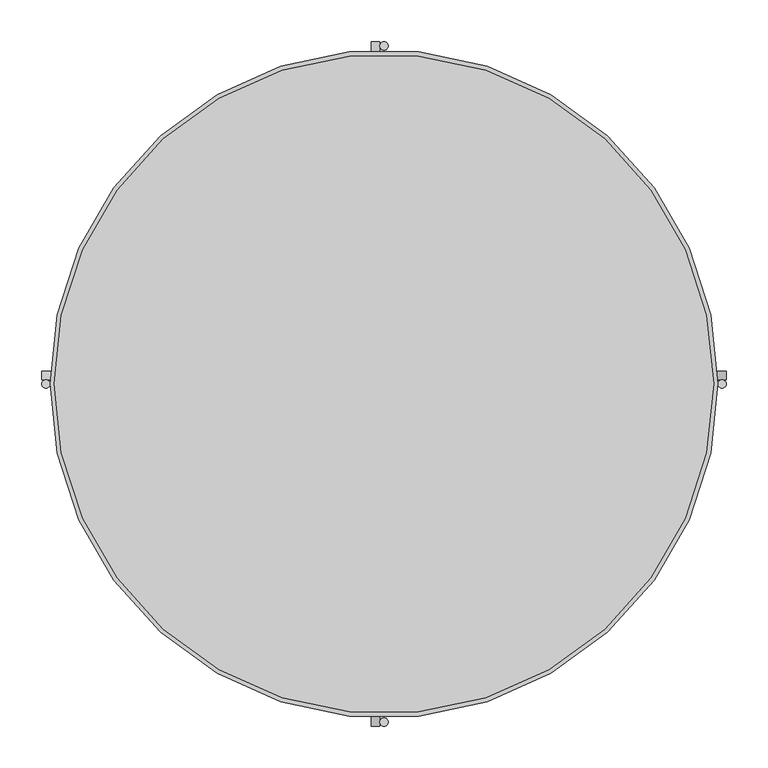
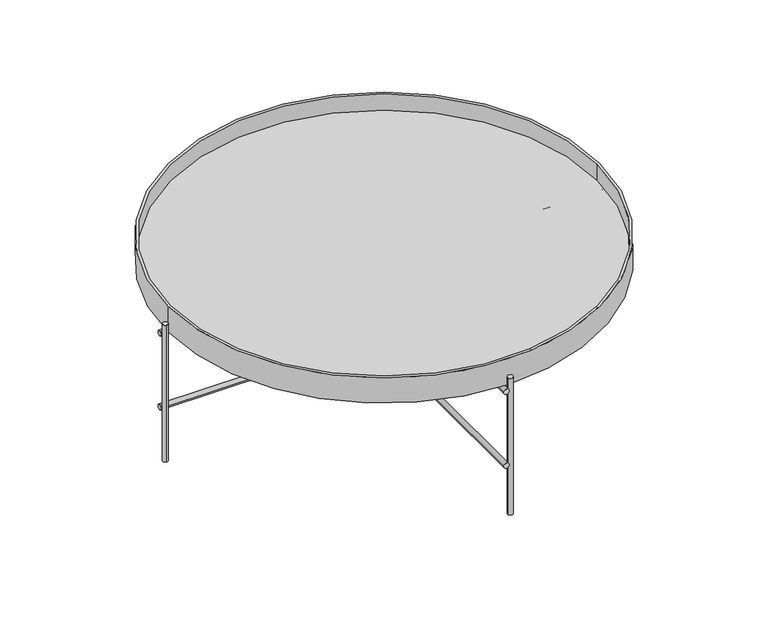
"""IFC4 building model written with IfcOpenShell, lengths in millimetres: furniture geometry, Mobiliário_Mobiliário de Escritório_Mesa de Centro e Apoio Lateral HOS10_Marelli : Mobiliário_Mobiliário de Escritório_Mesa de Centro e Apoio Lateral HOS10_Marelli."""

import ifcopenshell
import ifcopenshell.guid

model = None  # the IFC model being written
_history = None  # IfcOwnerHistory: only IFC2X3 demands one
_inside = {}  # id of a spatial element -> (the spatial element, [elements in it])
_under = {}  # id of a project, library or spatial element -> (it, [spatial elements below it])
_declared = {}  # id of a project -> (the project, [libraries it declares])
_typed = {}  # id of a type object -> (the type object, [elements of that type])
_made_of = {}  # id of a material, layer set ... -> (it, [elements and type objects made of it])


def new_model(schema):
    """Start an empty IFC model of exactly this schema.

    Asked for "IFC4X3", IfcOpenShell would pick the latest addendum, in which some entities
    have other attributes; the version numbers below select the first issue.
    IFC2X3 requires an IfcOwnerHistory on every rooted entity: one is made here for all.
    """
    global model, _history
    if schema == "IFC4X3":
        model = ifcopenshell.file(schema_version=(4, 3, 0, 0))
    else:
        model = ifcopenshell.file(schema=schema)
    _inside.clear()
    _under.clear()
    _declared.clear()
    _typed.clear()
    _made_of.clear()
    _history = None
    if model.schema == "IFC2X3":
        org = make("IfcOrganization", Name="unknown")
        user = make(
            "IfcPersonAndOrganization",
            ThePerson=make("IfcPerson", FamilyName="unknown"),
            TheOrganization=org,
        )
        app = make(
            "IfcApplication",
            ApplicationDeveloper=org,
            Version="unknown",
            ApplicationFullName="unknown",
            ApplicationIdentifier="unknown",
        )
        _history = make(
            "IfcOwnerHistory",
            OwningUser=user,
            OwningApplication=app,
            ChangeAction="ADDED",
            CreationDate=0,
        )
    return model


def make(cls, **values):
    """One entity of the class cls with the attributes given. An attribute that is None is left unset."""
    return model.create_entity(
        cls, **{name: value for name, value in values.items() if value is not None}
    )


def rooted(cls, **values):
    """An entity with a GlobalId (a new one), such as an element, a storey or a relation."""
    return make(cls, GlobalId=ifcopenshell.guid.new(), OwnerHistory=_history, **values)


def si_unit(unit_type, name, prefix=None):
    """IfcSIUnit, for example si_unit("LENGTHUNIT", "METRE", prefix="MILLI")."""
    return make("IfcSIUnit", UnitType=unit_type, Prefix=prefix, Name=name)


def assignment(units):
    """IfcUnitAssignment: the units of a project."""
    return None if units is None else make("IfcUnitAssignment", Units=units)


def point(xyz):
    """IfcCartesianPoint."""
    return None if xyz is None else make("IfcCartesianPoint", Coordinates=xyz)


def direction(xyz):
    """IfcDirection."""
    return None if xyz is None else make("IfcDirection", DirectionRatios=xyz)


def frame(location, z_axis=None, x_axis=None):
    """IfcAxis2Placement3D, a coordinate frame: its origin and axes. An axis left out is left unset."""
    return make(
        "IfcAxis2Placement3D",
        Location=point(location),
        Axis=direction(z_axis),
        RefDirection=direction(x_axis),
    )


def frame_2d(location, x_axis=None):
    """IfcAxis2Placement2D, a coordinate frame in the plane: its origin and x axis."""
    return make(
        "IfcAxis2Placement2D", Location=point(location), RefDirection=direction(x_axis)
    )


def origin():
    """The frame at (0, 0, 0) with its axes left unset."""
    return frame((0.0, 0.0, 0.0))


def origin_with_axes():
    """The frame at (0, 0, 0) with the z axis (0, 0, 1) and the x axis (1, 0, 0) written out."""
    return frame((0.0, 0.0, 0.0), z_axis=(0.0, 0.0, 1.0), x_axis=(1.0, 0.0, 0.0))


def place(relative_to, where):
    """IfcLocalPlacement: puts the frame where relative to a parent placement (None: the world)."""
    return make(
        "IfcLocalPlacement", PlacementRelTo=relative_to, RelativePlacement=where
    )


def context(
    kind, dimensions, precision=None, world=None, true_north=None, identifier=None
):
    """IfcGeometricRepresentationContext, for example the 3D "Model" context."""
    return make(
        "IfcGeometricRepresentationContext",
        ContextIdentifier=identifier,
        ContextType=kind,
        CoordinateSpaceDimension=dimensions,
        Precision=precision,
        WorldCoordinateSystem=world,
        TrueNorth=true_north,
    )


def project(units=None, contexts=None):
    """IfcProject with its units and contexts."""
    return rooted(
        "IfcProject",
        Name="project",
        RepresentationContexts=contexts,
        UnitsInContext=assignment(units),
    )


def spatial(cls, under=None, at=None, **own):
    """A site, building, storey or space (cls), placed at a placement, below another one or the project."""
    s = rooted(cls, ObjectPlacement=at, **own)
    if under is not None:
        _under.setdefault(under.id(), (under, []))[1].append(s)
    return s


def polyline(points):
    """IfcPolyline through the points."""
    return make("IfcPolyline", Points=[point(p) for p in points])


def circle_curve(where, radius):
    """IfcCircle in the frame where."""
    return make("IfcCircle", Position=where, Radius=radius)


def trimmed(basis, trim1, trim2, sense, master):
    """IfcTrimmedCurve: the piece of a basis curve between two trims."""
    return make(
        "IfcTrimmedCurve",
        BasisCurve=basis,
        Trim1=trim1,
        Trim2=trim2,
        SenseAgreement=sense,
        MasterRepresentation=master,
    )


def segment(curve, same_sense, transition):
    """IfcCompositeCurveSegment."""
    return make(
        "IfcCompositeCurveSegment",
        Transition=transition,
        SameSense=same_sense,
        ParentCurve=curve,
    )


def composite_curve(segments, self_intersect=None):
    """IfcCompositeCurve: segments joined end to end."""
    return make("IfcCompositeCurve", Segments=segments, SelfIntersect=self_intersect)


def outline(outer, holes=None, kind="AREA"):
    """IfcArbitraryClosedProfileDef: a profile drawn as a closed curve; with holes, ...WithVoids."""
    if holes is None:
        return make("IfcArbitraryClosedProfileDef", ProfileType=kind, OuterCurve=outer)
    return make(
        "IfcArbitraryProfileDefWithVoids",
        ProfileType=kind,
        OuterCurve=outer,
        InnerCurves=holes,
    )


def extrude(swept, where, along, depth):
    """IfcExtrudedAreaSolid: the profile swept, set in the frame where, extruded along a direction by depth."""
    return make(
        "IfcExtrudedAreaSolid",
        SweptArea=swept,
        Position=where,
        ExtrudedDirection=direction(along),
        Depth=depth,
    )


def shape(context_of_items, identifier, shape_type, items):
    """IfcShapeRepresentation: the items that make up one representation, for example the "Body"."""
    return make(
        "IfcShapeRepresentation",
        ContextOfItems=context_of_items,
        RepresentationIdentifier=identifier,
        RepresentationType=shape_type,
        Items=items,
    )


def source(mapping_origin, context_of_items, identifier, shape_type, items):
    """IfcRepresentationMap: a shape defined once, which mapped items show again and again."""
    return make(
        "IfcRepresentationMap",
        MappingOrigin=mapping_origin,
        MappedRepresentation=shape(context_of_items, identifier, shape_type, items),
    )


def transform(
    local_origin,
    x_axis=None,
    y_axis=None,
    z_axis=None,
    scale=None,
    scale2=None,
    scale3=None,
    uniform=True,
):
    """IfcCartesianTransformationOperator3D, or its non-uniform kind. x_axis, y_axis, z_axis: its Axis1, 2, 3."""
    if uniform:
        return make(
            "IfcCartesianTransformationOperator3D",
            Axis1=direction(x_axis),
            Axis2=direction(y_axis),
            LocalOrigin=point(local_origin),
            Scale=scale,
            Axis3=direction(z_axis),
        )
    return make(
        "IfcCartesianTransformationOperator3DnonUniform",
        Axis1=direction(x_axis),
        Axis2=direction(y_axis),
        LocalOrigin=point(local_origin),
        Scale=scale,
        Axis3=direction(z_axis),
        Scale2=scale2,
        Scale3=scale3,
    )


def mapped(mapping_source, mapping_target):
    """IfcMappedItem: shows the shape of a source again, moved by a transform."""
    return make(
        "IfcMappedItem", MappingSource=mapping_source, MappingTarget=mapping_target
    )


def made_of(thing, what):
    """Note that an element or type object is made of a material, layer set ...; save() writes the relation."""
    if what is not None:
        _made_of.setdefault(what.id(), (what, []))[1].append(thing)
    return thing


def element(
    cls,
    number,
    at=None,
    inside=None,
    cuts=None,
    type_object=None,
    material=None,
    context=None,
    identifier="Body",
    shape_type=None,
    held_by="IfcProductDefinitionShape",
    body=None,
    shapes=None,
    **own,
):
    """One element of the class cls, such as IfcWall. Its Tag is "e" and its number.

    at: its placement. inside: the storey or other place that contains it. cuts: it is an
    opening in that element (IfcRelVoidsElement). A single representation is given by context,
    identifier, shape_type and body (its items); several are given by shapes. held_by: the class
    of the entity that holds the representations. save() writes the other relations.
    """
    e = rooted(cls, Tag="e%d" % number, ObjectPlacement=at, **own)
    if body is not None:
        shapes = [shape(context, identifier, shape_type, body)]
    if shapes is not None:
        e.Representation = make(held_by, Representations=shapes)
    if inside is not None:
        _inside.setdefault(inside.id(), (inside, []))[1].append(e)
    if cuts is not None:
        rooted(
            "IfcRelVoidsElement", RelatingBuildingElement=cuts, RelatedOpeningElement=e
        )
    if type_object is not None:
        _typed.setdefault(type_object.id(), (type_object, []))[1].append(e)
    return made_of(e, material)


def aggregate(whole, parts):
    """IfcRelAggregates: a whole, such as a stair, and the parts it consists of."""
    return rooted("IfcRelAggregates", RelatingObject=whole, RelatedObjects=parts)


def save(model, path):
    """Write the relations noted so far, then the file.

    IfcRelAggregates (storeys below a building ...), IfcRelContainedInSpatialStructure (elements
    in a storey), IfcRelDefinesByType, IfcRelAssociatesMaterial and IfcRelDeclares: one each for
    every whole, place, type object, material and project.
    """
    for whole, parts in _under.values():
        aggregate(whole, parts)
    for where, things in _inside.values():
        rooted(
            "IfcRelContainedInSpatialStructure",
            RelatedElements=things,
            RelatingStructure=where,
        )
    for kind, things in _typed.values():
        rooted("IfcRelDefinesByType", RelatedObjects=things, RelatingType=kind)
    for what, things in _made_of.values():
        rooted("IfcRelAssociatesMaterial", RelatedObjects=things, RelatingMaterial=what)
    for by, libraries in _declared.values():
        rooted("IfcRelDeclares", RelatingContext=by, RelatedDefinitions=libraries)
    model.write(path)


def plane_surface(at):
    """IfcPlane: the flat surface through the origin of the frame at, square to its z axis."""
    return make("IfcPlane", Position=at)


def cylinder_surface(at, radius):
    """IfcCylindricalSurface: all points at the distance radius from the z axis of the frame at."""
    return make("IfcCylindricalSurface", Position=at, Radius=radius)


def revolved_surface(curve, axis_point, axis_direction):
    """IfcSurfaceOfRevolution: the curve turned about the line through axis_point along axis_direction."""
    return make(
        "IfcSurfaceOfRevolution",
        SweptCurve=make("IfcArbitraryOpenProfileDef", ProfileType="CURVE", Curve=curve),
        AxisPosition=make("IfcAxis1Placement", Location=point(axis_point), Axis=direction(axis_direction)),
    )


def advanced_brep(points, edges, surfaces, faces):
    """IfcAdvancedBrep: a solid bounded by faces that lie on surfaces and meet in shared edges.

    An edge is (start, end): straight between two places in points (the first is 0);
    or (start, end, curve); or (start, end, curve, False) where it runs against its curve.
    A face is (place in surfaces, loops), or (place, loops, False) where it looks against
    its surface's normal. A loop lists edges by number (the first is 1), with a minus sign
    where the edge is run from its end to its start. The first loop is the outer one.
    """
    corners = [point(p) for p in points]
    vertices = [make("IfcVertexPoint", VertexGeometry=c) for c in corners]
    made = []
    for start, end, *more in edges:
        made.append(
            make(
                "IfcEdgeCurve",
                EdgeStart=vertices[start],
                EdgeEnd=vertices[end],
                EdgeGeometry=more[0] if more else make("IfcPolyline", Points=[corners[start], corners[end]]),
                SameSense=more[1] if len(more) > 1 else True,
            )
        )
    hull = []
    for where, loops, *sense in faces:
        bounds = []
        for j, loop in enumerate(loops):
            ring = [make("IfcOrientedEdge", EdgeElement=made[abs(k) - 1], Orientation=k > 0) for k in loop]
            bounds.append(
                make(
                    "IfcFaceOuterBound" if j == 0 else "IfcFaceBound",
                    Bound=make("IfcEdgeLoop", EdgeList=ring),
                    Orientation=True,
                )
            )
        hull.append(make("IfcAdvancedFace", Bounds=bounds, FaceSurface=surfaces[where], SameSense=sense[0] if sense else True))
    return make("IfcAdvancedBrep", Outer=make("IfcClosedShell", CfsFaces=hull))


def furniture_61072afe(model_context):
    return source(origin(), model_context, "Body", "SolidModel", [
        extrude(outline(composite_curve([segment(trimmed(circle_curve(frame_2d((0.0, 405.0)), 5.0), [point((-5.0, 405.0))], [point((5.0, 405.0))], False, "CARTESIAN"), True, "CONTINUOUS"), segment(trimmed(circle_curve(frame_2d((0.0, 405.0)), 5.0), [point((5.0, 405.0))], [point((-5.0, 405.0))], False, "CARTESIAN"), True, "CONTINUOUS")], self_intersect=False)), origin_with_axes(), (0.0, 0.0, 1.0), 268.0),
        extrude(outline(composite_curve([segment(trimmed(circle_curve(frame_2d((0.0, -405.0)), 5.0), [point((-5.0, -405.0))], [point((5.0, -405.0))], False, "CARTESIAN"), True, "CONTINUOUS"), segment(trimmed(circle_curve(frame_2d((0.0, -405.0)), 5.0), [point((5.0, -405.0))], [point((-5.0, -405.0))], False, "CARTESIAN"), True, "CONTINUOUS")], self_intersect=False)), origin_with_axes(), (0.0, 0.0, 1.0), 268.0),
        extrude(outline(composite_curve([segment(trimmed(circle_curve(frame_2d((405.0, 0.0)), 5.0), [point((405.0, -5.0))], [point((405.0, 5.0))], False, "CARTESIAN"), True, "CONTINUOUS"), segment(trimmed(circle_curve(frame_2d((405.0, 0.0)), 5.0), [point((405.0, 5.0))], [point((405.0, -5.0))], False, "CARTESIAN"), True, "CONTINUOUS")], self_intersect=False)), origin_with_axes(), (0.0, 0.0, 1.0), 268.0),
        extrude(outline(composite_curve([segment(trimmed(circle_curve(frame_2d((-405.0, 0.0)), 5.0), [point((-405.0, -5.0))], [point((-405.0, 5.0))], False, "CARTESIAN"), True, "CONTINUOUS"), segment(trimmed(circle_curve(frame_2d((-405.0, 0.0)), 5.0), [point((-405.0, 5.0))], [point((-405.0, -5.0))], False, "CARTESIAN"), True, "CONTINUOUS")], self_intersect=False)), origin_with_axes(), (0.0, 0.0, 1.0), 268.0),
        advanced_brep(
        [(-400.0, 0.0, 300.0), (400.0, 0.0, 300.0), (395.0, 0.0, 300.0), (-395.0, 0.0, 300.0), (-400.0, 0.0, 250.0), (400.0, 0.0, 250.0), (-395.0, 0.0, 268.0), (395.0, 0.0, 268.0)],
        [
            (0, 1, circle_curve(frame((0.0, 0.0, 300.0), z_axis=(0.0, 0.0, 1.0), x_axis=(1.0, 0.0, 0.0)), 400.0)),
            (1, 0, circle_curve(frame((0.0, 0.0, 300.0), z_axis=(0.0, 0.0, 1.0), x_axis=(1.0, 0.0, 0.0)), 400.0)),
            (2, 3, circle_curve(frame((0.0, 0.0, 300.0), z_axis=(0.0, 0.0, -1.0), x_axis=(1.0, 0.0, 0.0)), 395.0)),
            (3, 2, circle_curve(frame((0.0, 0.0, 300.0), z_axis=(0.0, 0.0, -1.0), x_axis=(1.0, 0.0, 0.0)), 395.0)),
            (4, 5, circle_curve(frame((0.0, 0.0, 250.0), z_axis=(0.0, 0.0, -1.0), x_axis=(1.0, 0.0, 0.0)), 400.0)),
            (5, 4, circle_curve(frame((0.0, 0.0, 250.0), z_axis=(0.0, 0.0, -1.0), x_axis=(1.0, 0.0, 0.0)), 400.0)),
            (0, 4),
            (5, 1),
            (6, 7, circle_curve(frame((0.0, 0.0, 268.0), z_axis=(0.0, 0.0, 1.0), x_axis=(1.0, 0.0, 0.0)), 395.0)),
            (7, 6, circle_curve(frame((0.0, 0.0, 268.0), z_axis=(0.0, 0.0, 1.0), x_axis=(1.0, 0.0, 0.0)), 395.0)),
            (6, 3),
            (2, 7),
        ],
        [
            plane_surface(frame((400.0, 0.0, 300.0), z_axis=(0.0, 0.0, 1.0), x_axis=(0.0, 1.0, 0.0))),
            plane_surface(frame((400.0, 0.0, 250.0), z_axis=(0.0, 0.0, -1.0), x_axis=(0.0, -1.0, 0.0))),
            cylinder_surface(frame((0.0, 0.0, 250.0), z_axis=(0.0, 0.0, 1.0), x_axis=(1.0, 0.0, 0.0)), 400.0),
            plane_surface(frame((395.0, 0.0, 268.0), z_axis=(0.0, 0.0, 1.0), x_axis=(0.0, -1.0, 0.0))),
            revolved_surface(polyline([(395.0, 0.0, 300.0), (395.0, 0.0, 268.0)]), (0.0, 0.0, 268.0), (0.0, 0.0, 1.0)),
        ],
        [
            (0, [[1, 2], [3, 4]]),
            (1, [[5, 6]]),
            (2, [[-1, 7, -6, 8]]),
            (2, [[-2, -8, -5, -7]]),
            (3, [[9, 10]]),
            (4, [[-9, 11, -3, 12]]),
            (4, [[-10, -12, -4, -11]]),
        ],
    ),
        advanced_brep(
        [(-15.0, 410.0, 100.0), (-5.0, 410.0, 100.0), (-5.0, 0.0, 100.0), (-15.0, 0.0, 100.0), (-15.0, -410.0, 100.0), (-5.0, -410.0, 100.0)],
        [
            (0, 1, circle_curve(frame((-10.0, 410.0, 100.0), z_axis=(0.0, 1.0, 0.0), x_axis=(1.0, 0.0, 0.0)), 5.0)),
            (1, 0, circle_curve(frame((-10.0, 410.0, 100.0), z_axis=(0.0, 1.0, 0.0), x_axis=(1.0, 0.0, 0.0)), 5.0)),
            (1, 2),
            (2, 3, circle_curve(frame((-10.0, 0.0, 100.0), z_axis=(0.0, 1.0, 0.0), x_axis=(1.0, 0.0, 0.0)), 5.0)),
            (3, 0),
            (3, 2, circle_curve(frame((-10.0, 0.0, 100.0), z_axis=(0.0, 1.0, 0.0), x_axis=(1.0, 0.0, 0.0)), 5.0)),
            (4, 5, circle_curve(frame((-10.0, -410.0, 100.0), z_axis=(0.0, -1.0, 0.0), x_axis=(1.0, 0.0, 0.0)), 5.0)),
            (5, 4, circle_curve(frame((-10.0, -410.0, 100.0), z_axis=(0.0, -1.0, 0.0), x_axis=(1.0, 0.0, 0.0)), 5.0)),
            (4, 3),
            (2, 5),
        ],
        [
            plane_surface(frame((-5.0, 410.0, 100.0), z_axis=(0.0, 1.0, 0.0), x_axis=(0.0, 0.0, -1.0))),
            cylinder_surface(frame((-10.0, 410.0, 100.0), z_axis=(0.0, -1.0, 0.0), x_axis=(1.0, 0.0, 0.0)), 5.0),
            plane_surface(frame((-5.0, -410.0, 100.0), z_axis=(0.0, -1.0, 0.0), x_axis=(0.0, 0.0, 1.0))),
            cylinder_surface(frame((-10.0, -410.0, 100.0), z_axis=(0.0, 1.0, 0.0), x_axis=(1.0, 0.0, 0.0)), 5.0),
        ],
        [
            (0, [[1, 2]]),
            (1, [[-2, 3, 4, 5]]),
            (1, [[-1, -5, 6, -3]]),
            (2, [[7, 8]]),
            (3, [[-7, 9, -4, 10]]),
            (3, [[-8, -10, -6, -9]]),
        ],
    ),
        advanced_brep(
        [(-410.0, 5.0, 100.0), (-410.0, 15.0, 100.0), (0.0, 15.0, 100.0), (0.0, 5.0, 100.0), (410.0, 5.0, 100.0), (410.0, 15.0, 100.0)],
        [
            (0, 1, circle_curve(frame((-410.0, 10.0, 100.0), z_axis=(-1.0, 0.0, 0.0), x_axis=(0.0, 1.0, 0.0)), 5.0)),
            (1, 0, circle_curve(frame((-410.0, 10.0, 100.0), z_axis=(-1.0, 0.0, 0.0), x_axis=(0.0, 1.0, 0.0)), 5.0)),
            (1, 2),
            (2, 3, circle_curve(frame((0.0, 10.0, 100.0), z_axis=(-1.0, 0.0, 0.0), x_axis=(0.0, 1.0, 0.0)), 5.0)),
            (3, 0),
            (3, 2, circle_curve(frame((0.0, 10.0, 100.0), z_axis=(-1.0, 0.0, 0.0), x_axis=(0.0, 1.0, 0.0)), 5.0)),
            (4, 5, circle_curve(frame((410.0, 10.0, 100.0), z_axis=(1.0, 0.0, 0.0), x_axis=(0.0, 1.0, 0.0)), 5.0)),
            (5, 4, circle_curve(frame((410.0, 10.0, 100.0), z_axis=(1.0, 0.0, 0.0), x_axis=(0.0, 1.0, 0.0)), 5.0)),
            (4, 3),
            (2, 5),
        ],
        [
            plane_surface(frame((-410.0, 15.0, 100.0), z_axis=(-1.0, 0.0, 0.0), x_axis=(0.0, 0.0, -1.0))),
            cylinder_surface(frame((-410.0, 10.0, 100.0), z_axis=(1.0, 0.0, 0.0), x_axis=(0.0, 1.0, 0.0)), 5.0),
            plane_surface(frame((410.0, 15.0, 100.0), z_axis=(1.0, 0.0, 0.0), x_axis=(0.0, 0.0, 1.0))),
            cylinder_surface(frame((410.0, 10.0, 100.0), z_axis=(-1.0, 0.0, 0.0), x_axis=(0.0, 1.0, 0.0)), 5.0),
        ],
        [
            (0, [[1, 2]]),
            (1, [[-2, 3, 4, 5]]),
            (1, [[-1, -5, 6, -3]]),
            (2, [[7, 8]]),
            (3, [[-7, 9, -4, 10]]),
            (3, [[-8, -10, -6, -9]]),
        ],
    ),
        extrude(outline(composite_curve([segment(trimmed(circle_curve(frame_2d((245.0, -10.0)), 5.0), [point((245.0, -15.0))], [point((245.0, -5.0))], False, "CARTESIAN"), True, "CONTINUOUS"), segment(trimmed(circle_curve(frame_2d((245.0, -10.0)), 5.0), [point((245.0, -5.0))], [point((245.0, -15.0))], False, "CARTESIAN"), True, "CONTINUOUS")], self_intersect=False)), frame((0.0, -410.0, 0.0), z_axis=(0.0, 1.0, 0.0), x_axis=(0.0, 0.0, 1.0)), (0.0, 0.0, 1.0), 130.0),
        extrude(outline(composite_curve([segment(trimmed(circle_curve(frame_2d((245.0, -10.0)), 5.0), [point((245.0, -15.0))], [point((245.0, -5.0))], False, "CARTESIAN"), True, "CONTINUOUS"), segment(trimmed(circle_curve(frame_2d((245.0, -10.0)), 5.0), [point((245.0, -5.0))], [point((245.0, -15.0))], False, "CARTESIAN"), True, "CONTINUOUS")], self_intersect=False)), frame((0.0, 280.0, 0.0), z_axis=(0.0, 1.0, 0.0), x_axis=(0.0, 0.0, 1.0)), (0.0, 0.0, 1.0), 130.0),
        extrude(outline(composite_curve([segment(trimmed(circle_curve(frame_2d((10.0, 245.0)), 5.0), [point((5.0, 245.0))], [point((15.0, 245.0))], False, "CARTESIAN"), True, "CONTINUOUS"), segment(trimmed(circle_curve(frame_2d((10.0, 245.0)), 5.0), [point((15.0, 245.0))], [point((5.0, 245.0))], False, "CARTESIAN"), True, "CONTINUOUS")], self_intersect=False)), frame((-410.0, 0.0, 0.0), z_axis=(1.0, 0.0, 0.0), x_axis=(0.0, 1.0, 0.0)), (0.0, 0.0, 1.0), 130.0),
        extrude(outline(composite_curve([segment(trimmed(circle_curve(frame_2d((10.0, 245.0)), 5.0), [point((5.0, 245.0))], [point((15.0, 245.0))], False, "CARTESIAN"), True, "CONTINUOUS"), segment(trimmed(circle_curve(frame_2d((10.0, 245.0)), 5.0), [point((15.0, 245.0))], [point((5.0, 245.0))], False, "CARTESIAN"), True, "CONTINUOUS")], self_intersect=False)), frame((280.0, 0.0, 0.0), z_axis=(1.0, 0.0, 0.0), x_axis=(0.0, 1.0, 0.0)), (0.0, 0.0, 1.0), 130.0),
    ])


if __name__ == "__main__":
    model = new_model("IFC4")
    model_context = context("Model", 3, world=origin())
    ifc_project = project(units=[si_unit("LENGTHUNIT", "METRE", prefix="MILLI")], contexts=[model_context])
    site = spatial("IfcSite", under=ifc_project)
    building = spatial("IfcBuilding", under=site)
    placement = place(None, origin())
    furniture_shape = furniture_61072afe(model_context)
    element("IfcFurniture", 1, ObjectType="Mobiliário_Mobiliário de Escritório_Mesa de Centro e Apoio Lateral HOS10_Marelli : Mobiliário_Mobiliário de Escritório_Mesa de Centro e Apoio Lateral HOS10_Marelli", at=placement, inside=building, context=model_context, shape_type="MappedRepresentation", body=[
        mapped(furniture_shape, transform((0.0, 0.0, 0.0), x_axis=(1.0, 0.0, 0.0), y_axis=(0.0, 1.0, 0.0), z_axis=(0.0, 0.0, 1.0))),
    ])
    save(model, "model.ifc")
